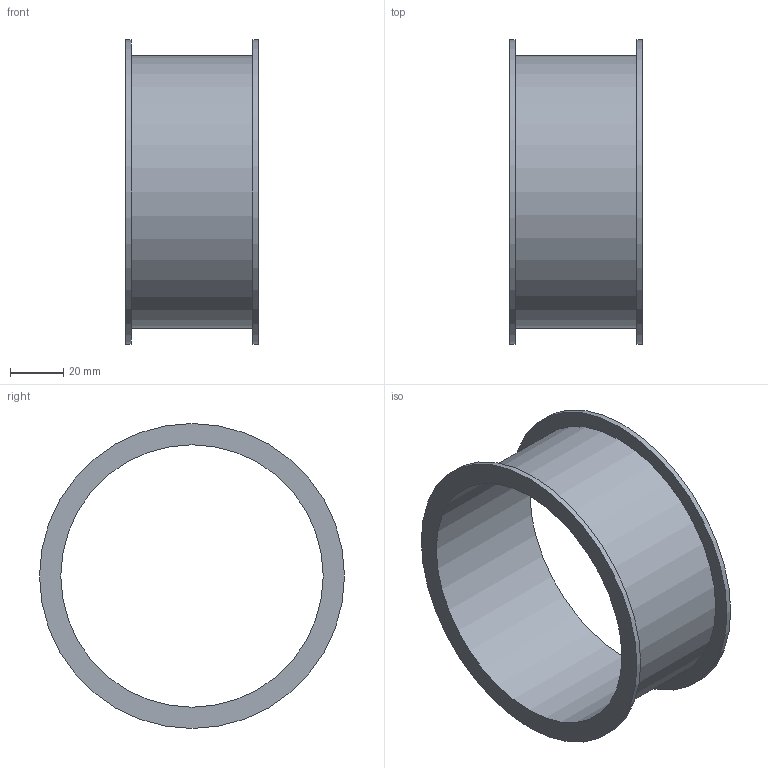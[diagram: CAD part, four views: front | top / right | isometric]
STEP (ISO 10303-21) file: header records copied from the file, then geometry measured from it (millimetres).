
FILE_DESCRIPTION((''),'2;1');
FILE_NAME('U:\Wolfgang\Marcel-3D\fertig\Kapitel 1\1021005.stp','2010-05-31T11:03:18',('TK2'),(''),'Autodesk Inventor 2010','Autodesk Inventor 2010','');
FILE_SCHEMA(('AUTOMOTIVE_DESIGN { 1 0 10303 214 1 1 1 1 }'));
Length unit declared in the file: millimetre
Products named in the file (1): 1021005
Bounding box: 50 x 115 x 115 mm (x, y, z)
Volume: 39948.5 mm3; surface area: 41368.5 mm2
Topology: 1 solids, 1 shells, 8 faces, 12 edges, 8 vertices
Faces by surface type: cylinder 4, plane 4
Full cylindrical faces by diameter (mm): 99 x1, 103 x1, 115 x2
Entity records: 194 total; most frequent: DIRECTION 34, CARTESIAN_POINT 25, AXIS2_PLACEMENT_3D 17, ORIENTED_EDGE 16, EDGE_LOOP 16, VERTEX_POINT 8, CIRCLE 8, EDGE_CURVE 8
